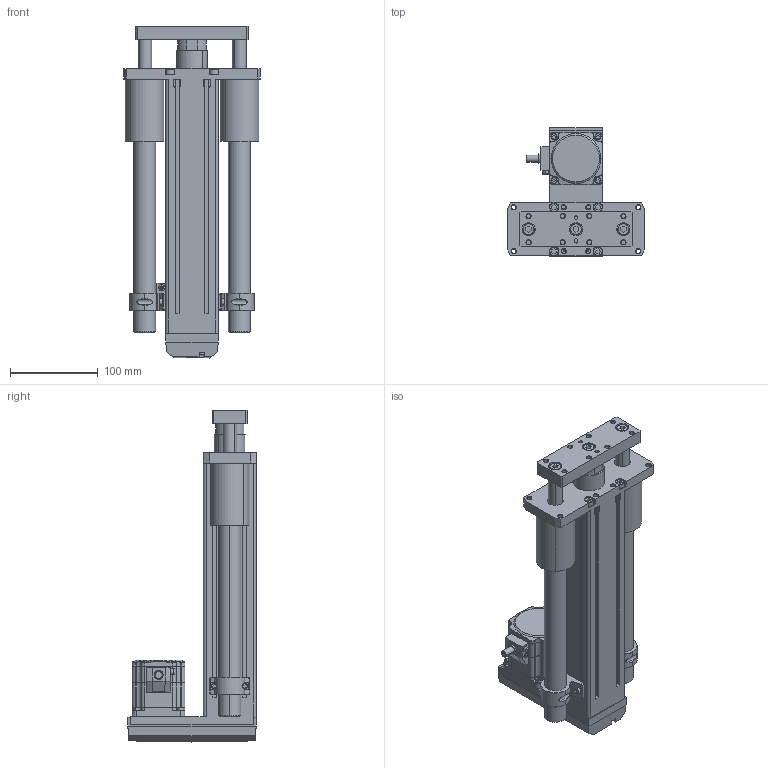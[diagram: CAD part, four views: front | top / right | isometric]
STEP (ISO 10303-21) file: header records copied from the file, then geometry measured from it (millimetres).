
FILE_DESCRIPTION (( 'STEP AP203' ), '1' );
FILE_NAME ('EACM6RWD20ARAC-G.step', '2013-11-07T05:58:10', ( 'om' ), ( 'Hewlett-Packard Company' ), 'SwSTEP 2.0', 'SolidWorks 2011', '' );
FILE_SCHEMA (( 'CONFIG_CONTROL_DESIGN' ));
Length unit declared in the file: millimetre
Products named in the file (5): EACM6RWD20ARAC-G_Nut; EACM6RWD20ARAC-G_Rod; EACM6RWD20ARAC-G; EACM6RWD20ARAC-G_BASE; EACM6RWD20ARAC-G_Motor
Assembly tree (3 placements, depth 2):
  EACM6RWD20ARAC-G_Nut
  EACM6RWD20ARAC-G
    EACM6RWD20ARAC-G_Motor
    EACM6RWD20ARAC-G_Rod
    EACM6RWD20ARAC-G_BASE
Bounding box: 156 x 146.6 x 378.33 mm (x, y, z)
Volume: 2021249 mm3; surface area: 394274.8 mm2
Topology: 3 solids, 16 shells, 1100 faces, 2751 edges, 1757 vertices
Faces by surface type: plane 580, cylinder 370, cone 104, torus 34, bspline 12
Entity records: 33961 total; most frequent: CARTESIAN_POINT 6594, DIRECTION 5738, ORIENTED_EDGE 5486, EDGE_CURVE 2743, AXIS2_PLACEMENT_3D 2005, VERTEX_POINT 1757, VECTOR 1728, LINE 1728
